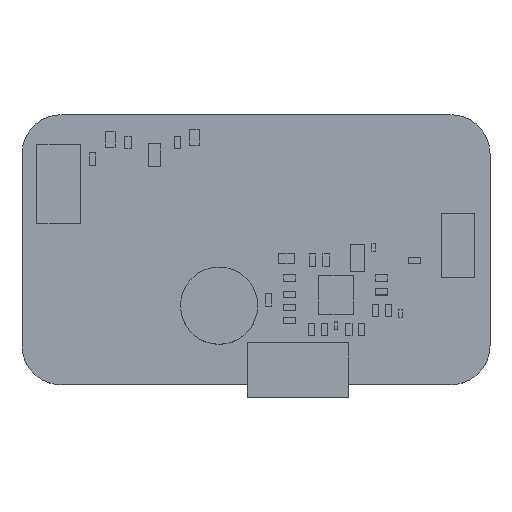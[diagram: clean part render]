
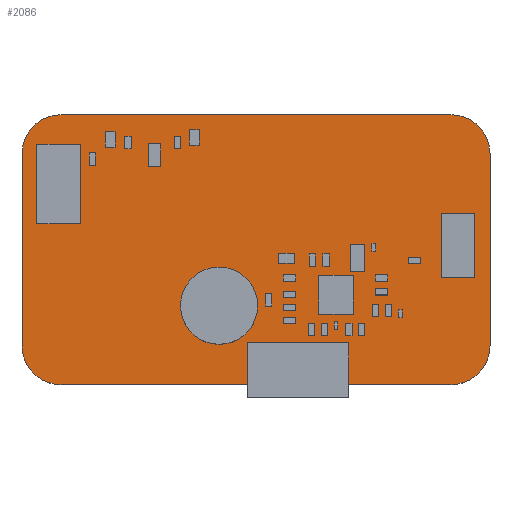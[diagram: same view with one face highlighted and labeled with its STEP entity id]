
A CAD part, top view. The second image highlights one B-rep face of the part: STEP entity #2086.
In plain terms, the highlighted planar face has unit normal (0, 0, 1).
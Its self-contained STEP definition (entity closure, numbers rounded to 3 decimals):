
#11 = VERTEX_POINT ( 'NONE', #4033 ) ;
#46 = EDGE_CURVE ( 'NONE', #5353, #3523, #1728, .T. ) ;
#92 = DIRECTION ( 'NONE',  ( 1., 0., 0. ) ) ;
#120 = EDGE_CURVE ( 'NONE', #5523, #3305, #5534, .T. ) ;
#170 = CIRCLE ( 'NONE', #3666, 5. ) ;
#217 = DIRECTION ( 'NONE',  ( 1., 0., 0. ) ) ;
#238 = ORIENTED_EDGE ( 'NONE', *, *, #5652, .T. ) ;
#462 = ORIENTED_EDGE ( 'NONE', *, *, #120, .T. ) ;
#480 = CARTESIAN_POINT ( 'NONE',  ( 55., 0., 0. ) ) ;
#601 = VERTEX_POINT ( 'NONE', #3131 ) ;
#816 = CARTESIAN_POINT ( 'NONE',  ( 55., -29.619, 0. ) ) ;
#896 = AXIS2_PLACEMENT_3D ( 'NONE', #2455, #969, #92 ) ;
#969 = DIRECTION ( 'NONE',  ( 0., 0., 1. ) ) ;
#1379 = AXIS2_PLACEMENT_3D ( 'NONE', #6058, #4696, #4559 ) ;
#1427 = ORIENTED_EDGE ( 'NONE', *, *, #5426, .T. ) ;
#1436 = CARTESIAN_POINT ( 'NONE',  ( 60., -5., 0. ) ) ;
#1491 = EDGE_LOOP ( 'NONE', ( #3718, #238, #1427, #4022, #4672, #462, #5525, #4950 ) ) ;
#1545 = CARTESIAN_POINT ( 'NONE',  ( 0., -5., 0. ) ) ;
#1583 = DIRECTION ( 'NONE',  ( 0., 0., 1. ) ) ;
#1728 = LINE ( 'NONE', #5507, #5753 ) ;
#1855 = DIRECTION ( 'NONE',  ( 0., 0., 1. ) ) ;
#1991 = EDGE_CURVE ( 'NONE', #3007, #11, #2371, .T. ) ;
#2086 = ADVANCED_FACE ( 'NONE', ( #3984 ), #2930, .T. ) ;
#2166 = VECTOR ( 'NONE', #2849, 1000. ) ;
#2248 = CARTESIAN_POINT ( 'NONE',  ( 5., 0., 0. ) ) ;
#2343 = EDGE_CURVE ( 'NONE', #3305, #601, #5170, .T. ) ;
#2371 = CIRCLE ( 'NONE', #1379, 5. ) ;
#2455 = CARTESIAN_POINT ( 'NONE',  ( 5., -5., 0. ) ) ;
#2512 = EDGE_CURVE ( 'NONE', #601, #3007, #5820, .T. ) ;
#2771 = EDGE_CURVE ( 'NONE', #3523, #5523, #4574, .T. ) ;
#2849 = DIRECTION ( 'NONE',  ( -1., 0., 0. ) ) ;
#2930 = PLANE ( 'NONE',  #3470 ) ;
#3007 = VERTEX_POINT ( 'NONE', #6004 ) ;
#3131 = CARTESIAN_POINT ( 'NONE',  ( 0., -5., 0. ) ) ;
#3305 = VERTEX_POINT ( 'NONE', #2248 ) ;
#3443 = CARTESIAN_POINT ( 'NONE',  ( 55., 0., 0. ) ) ;
#3470 = AXIS2_PLACEMENT_3D ( 'NONE', #5851, #1583, #3923 ) ;
#3523 = VERTEX_POINT ( 'NONE', #1436 ) ;
#3666 = AXIS2_PLACEMENT_3D ( 'NONE', #816, #4082, #217 ) ;
#3718 = ORIENTED_EDGE ( 'NONE', *, *, #1991, .T. ) ;
#3879 = VECTOR ( 'NONE', #5355, 1000. ) ;
#3923 = DIRECTION ( 'NONE',  ( 1., 0., 0. ) ) ;
#3940 = DIRECTION ( 'NONE',  ( 1., 0., 0. ) ) ;
#3984 = FACE_OUTER_BOUND ( 'NONE', #1491, .T. ) ;
#4022 = ORIENTED_EDGE ( 'NONE', *, *, #46, .T. ) ;
#4033 = CARTESIAN_POINT ( 'NONE',  ( 5., -34.619, 0. ) ) ;
#4082 = DIRECTION ( 'NONE',  ( 0., 0., 1. ) ) ;
#4227 = CARTESIAN_POINT ( 'NONE',  ( 55., -5., 0. ) ) ;
#4244 = DIRECTION ( 'NONE',  ( 0., 1., 0. ) ) ;
#4559 = DIRECTION ( 'NONE',  ( 1., 0., 0. ) ) ;
#4574 = CIRCLE ( 'NONE', #5973, 5. ) ;
#4672 = ORIENTED_EDGE ( 'NONE', *, *, #2771, .T. ) ;
#4696 = DIRECTION ( 'NONE',  ( 0., 0., 1. ) ) ;
#4732 = DIRECTION ( 'NONE',  ( 1., 0., 0. ) ) ;
#4950 = ORIENTED_EDGE ( 'NONE', *, *, #2512, .T. ) ;
#4977 = CARTESIAN_POINT ( 'NONE',  ( 5., -34.619, 0. ) ) ;
#5061 = VECTOR ( 'NONE', #3940, 1000. ) ;
#5119 = VERTEX_POINT ( 'NONE', #6140 ) ;
#5170 = CIRCLE ( 'NONE', #896, 5. ) ;
#5353 = VERTEX_POINT ( 'NONE', #5889 ) ;
#5355 = DIRECTION ( 'NONE',  ( 0., -1., 0. ) ) ;
#5426 = EDGE_CURVE ( 'NONE', #5119, #5353, #170, .T. ) ;
#5507 = CARTESIAN_POINT ( 'NONE',  ( 60., -29.619, 0. ) ) ;
#5523 = VERTEX_POINT ( 'NONE', #3443 ) ;
#5525 = ORIENTED_EDGE ( 'NONE', *, *, #2343, .T. ) ;
#5534 = LINE ( 'NONE', #480, #2166 ) ;
#5652 = EDGE_CURVE ( 'NONE', #11, #5119, #5839, .T. ) ;
#5753 = VECTOR ( 'NONE', #4244, 1000. ) ;
#5820 = LINE ( 'NONE', #1545, #3879 ) ;
#5839 = LINE ( 'NONE', #4977, #5061 ) ;
#5851 = CARTESIAN_POINT ( 'NONE',  ( 5., -29.619, 0. ) ) ;
#5889 = CARTESIAN_POINT ( 'NONE',  ( 60., -29.619, 0. ) ) ;
#5973 = AXIS2_PLACEMENT_3D ( 'NONE', #4227, #1855, #4732 ) ;
#6004 = CARTESIAN_POINT ( 'NONE',  ( 0., -29.619, 0. ) ) ;
#6058 = CARTESIAN_POINT ( 'NONE',  ( 5., -29.619, 0. ) ) ;
#6140 = CARTESIAN_POINT ( 'NONE',  ( 55., -34.619, 0. ) ) ;
